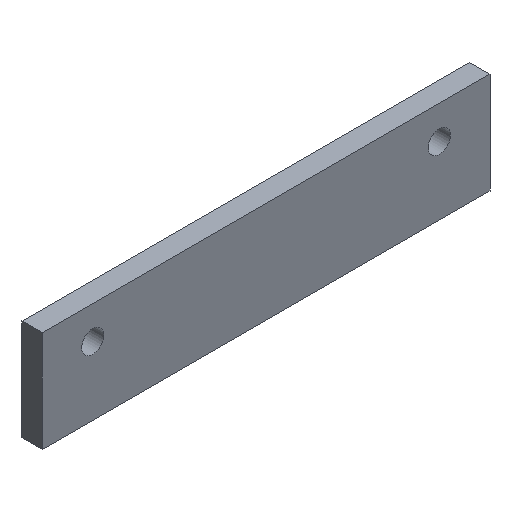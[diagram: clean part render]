
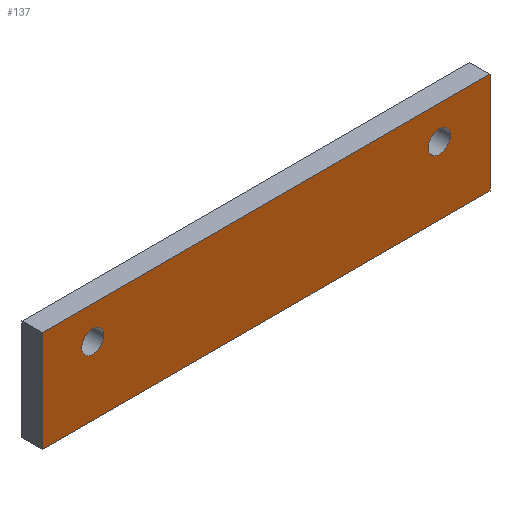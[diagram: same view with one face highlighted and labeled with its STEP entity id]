
A CAD part, isometric view. The second image highlights one B-rep face of the part: STEP entity #137.
In plain terms, the highlighted planar face has unit normal (0, -1, 0).
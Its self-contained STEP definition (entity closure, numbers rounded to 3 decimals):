
#21 = EDGE_CURVE('',#22,#24,#26,.T.);
#22 = VERTEX_POINT('',#23);
#23 = CARTESIAN_POINT('',(-525.,-164.913,-43.));
#24 = VERTEX_POINT('',#25);
#25 = CARTESIAN_POINT('',(-525.,-164.913,-3.));
#26 = SURFACE_CURVE('',#27,(#31,#43),.PCURVE_S1.);
#27 = LINE('',#28,#29);
#28 = CARTESIAN_POINT('',(-525.,-164.913,-43.));
#29 = VECTOR('',#30,1.);
#30 = DIRECTION('',(0.,0.,1.));
#31 = PCURVE('',#32,#37);
#32 = PLANE('',#33);
#33 = AXIS2_PLACEMENT_3D('',#34,#35,#36);
#34 = CARTESIAN_POINT('',(-525.,-164.913,-43.));
#35 = DIRECTION('',(1.,0.,-0.));
#36 = DIRECTION('',(0.,0.,1.));
#37 = DEFINITIONAL_REPRESENTATION('',(#38),#42);
#38 = LINE('',#39,#40);
#39 = CARTESIAN_POINT('',(0.,0.));
#40 = VECTOR('',#41,1.);
#41 = DIRECTION('',(1.,0.));
#42 = ( GEOMETRIC_REPRESENTATION_CONTEXT(2) 
PARAMETRIC_REPRESENTATION_CONTEXT() REPRESENTATION_CONTEXT('2D SPACE',''
  ) );
#43 = PCURVE('',#44,#49);
#44 = PLANE('',#45);
#45 = AXIS2_PLACEMENT_3D('',#46,#47,#48);
#46 = CARTESIAN_POINT('',(-525.,-164.913,-43.));
#47 = DIRECTION('',(-0.,1.,0.));
#48 = DIRECTION('',(0.,0.,1.));
#49 = DEFINITIONAL_REPRESENTATION('',(#50),#54);
#50 = LINE('',#51,#52);
#51 = CARTESIAN_POINT('',(0.,0.));
#52 = VECTOR('',#53,1.);
#53 = DIRECTION('',(1.,0.));
#54 = ( GEOMETRIC_REPRESENTATION_CONTEXT(2) 
PARAMETRIC_REPRESENTATION_CONTEXT() REPRESENTATION_CONTEXT('2D SPACE',''
  ) );
#72 = PLANE('',#73);
#73 = AXIS2_PLACEMENT_3D('',#74,#75,#76);
#74 = CARTESIAN_POINT('',(-525.,-164.913,-43.));
#75 = DIRECTION('',(0.,0.,1.));
#76 = DIRECTION('',(1.,0.,-0.));
#126 = PLANE('',#127);
#127 = AXIS2_PLACEMENT_3D('',#128,#129,#130);
#128 = CARTESIAN_POINT('',(-525.,-164.913,-3.));
#129 = DIRECTION('',(0.,0.,1.));
#130 = DIRECTION('',(1.,0.,-0.));
#137 = ADVANCED_FACE('',(#138,#213,#244),#44,.F.);
#138 = FACE_BOUND('',#139,.F.);
#139 = EDGE_LOOP('',(#140,#163,#164,#187));
#140 = ORIENTED_EDGE('',*,*,#141,.F.);
#141 = EDGE_CURVE('',#22,#142,#144,.T.);
#142 = VERTEX_POINT('',#143);
#143 = CARTESIAN_POINT('',(-348.,-164.913,-43.));
#144 = SURFACE_CURVE('',#145,(#149,#156),.PCURVE_S1.);
#145 = LINE('',#146,#147);
#146 = CARTESIAN_POINT('',(-525.,-164.913,-43.));
#147 = VECTOR('',#148,1.);
#148 = DIRECTION('',(1.,0.,-0.));
#149 = PCURVE('',#44,#150);
#150 = DEFINITIONAL_REPRESENTATION('',(#151),#155);
#151 = LINE('',#152,#153);
#152 = CARTESIAN_POINT('',(0.,0.));
#153 = VECTOR('',#154,1.);
#154 = DIRECTION('',(0.,1.));
#155 = ( GEOMETRIC_REPRESENTATION_CONTEXT(2) 
PARAMETRIC_REPRESENTATION_CONTEXT() REPRESENTATION_CONTEXT('2D SPACE',''
  ) );
#156 = PCURVE('',#72,#157);
#157 = DEFINITIONAL_REPRESENTATION('',(#158),#162);
#158 = LINE('',#159,#160);
#159 = CARTESIAN_POINT('',(0.,0.));
#160 = VECTOR('',#161,1.);
#161 = DIRECTION('',(1.,0.));
#162 = ( GEOMETRIC_REPRESENTATION_CONTEXT(2) 
PARAMETRIC_REPRESENTATION_CONTEXT() REPRESENTATION_CONTEXT('2D SPACE',''
  ) );
#163 = ORIENTED_EDGE('',*,*,#21,.T.);
#164 = ORIENTED_EDGE('',*,*,#165,.T.);
#165 = EDGE_CURVE('',#24,#166,#168,.T.);
#166 = VERTEX_POINT('',#167);
#167 = CARTESIAN_POINT('',(-348.,-164.913,-3.));
#168 = SURFACE_CURVE('',#169,(#173,#180),.PCURVE_S1.);
#169 = LINE('',#170,#171);
#170 = CARTESIAN_POINT('',(-525.,-164.913,-3.));
#171 = VECTOR('',#172,1.);
#172 = DIRECTION('',(1.,0.,-0.));
#173 = PCURVE('',#44,#174);
#174 = DEFINITIONAL_REPRESENTATION('',(#175),#179);
#175 = LINE('',#176,#177);
#176 = CARTESIAN_POINT('',(40.,0.));
#177 = VECTOR('',#178,1.);
#178 = DIRECTION('',(0.,1.));
#179 = ( GEOMETRIC_REPRESENTATION_CONTEXT(2) 
PARAMETRIC_REPRESENTATION_CONTEXT() REPRESENTATION_CONTEXT('2D SPACE',''
  ) );
#180 = PCURVE('',#126,#181);
#181 = DEFINITIONAL_REPRESENTATION('',(#182),#186);
#182 = LINE('',#183,#184);
#183 = CARTESIAN_POINT('',(0.,0.));
#184 = VECTOR('',#185,1.);
#185 = DIRECTION('',(1.,0.));
#186 = ( GEOMETRIC_REPRESENTATION_CONTEXT(2) 
PARAMETRIC_REPRESENTATION_CONTEXT() REPRESENTATION_CONTEXT('2D SPACE',''
  ) );
#187 = ORIENTED_EDGE('',*,*,#188,.F.);
#188 = EDGE_CURVE('',#142,#166,#189,.T.);
#189 = SURFACE_CURVE('',#190,(#194,#201),.PCURVE_S1.);
#190 = LINE('',#191,#192);
#191 = CARTESIAN_POINT('',(-348.,-164.913,-43.));
#192 = VECTOR('',#193,1.);
#193 = DIRECTION('',(0.,0.,1.));
#194 = PCURVE('',#44,#195);
#195 = DEFINITIONAL_REPRESENTATION('',(#196),#200);
#196 = LINE('',#197,#198);
#197 = CARTESIAN_POINT('',(0.,177.));
#198 = VECTOR('',#199,1.);
#199 = DIRECTION('',(1.,0.));
#200 = ( GEOMETRIC_REPRESENTATION_CONTEXT(2) 
PARAMETRIC_REPRESENTATION_CONTEXT() REPRESENTATION_CONTEXT('2D SPACE',''
  ) );
#201 = PCURVE('',#202,#207);
#202 = PLANE('',#203);
#203 = AXIS2_PLACEMENT_3D('',#204,#205,#206);
#204 = CARTESIAN_POINT('',(-348.,-164.913,-43.));
#205 = DIRECTION('',(1.,0.,-0.));
#206 = DIRECTION('',(0.,0.,1.));
#207 = DEFINITIONAL_REPRESENTATION('',(#208),#212);
#208 = LINE('',#209,#210);
#209 = CARTESIAN_POINT('',(0.,0.));
#210 = VECTOR('',#211,1.);
#211 = DIRECTION('',(1.,0.));
#212 = ( GEOMETRIC_REPRESENTATION_CONTEXT(2) 
PARAMETRIC_REPRESENTATION_CONTEXT() REPRESENTATION_CONTEXT('2D SPACE',''
  ) );
#213 = FACE_BOUND('',#214,.F.);
#214 = EDGE_LOOP('',(#215));
#215 = ORIENTED_EDGE('',*,*,#216,.F.);
#216 = EDGE_CURVE('',#217,#217,#219,.T.);
#217 = VERTEX_POINT('',#218);
#218 = CARTESIAN_POINT('',(-505.,-164.913,-11.6));
#219 = SURFACE_CURVE('',#220,(#225,#232),.PCURVE_S1.);
#220 = CIRCLE('',#221,4.4);
#221 = AXIS2_PLACEMENT_3D('',#222,#223,#224);
#222 = CARTESIAN_POINT('',(-505.,-164.913,-16.));
#223 = DIRECTION('',(0.,1.,0.));
#224 = DIRECTION('',(0.,-0.,1.));
#225 = PCURVE('',#44,#226);
#226 = DEFINITIONAL_REPRESENTATION('',(#227),#231);
#227 = CIRCLE('',#228,4.4);
#228 = AXIS2_PLACEMENT_2D('',#229,#230);
#229 = CARTESIAN_POINT('',(27.,20.));
#230 = DIRECTION('',(1.,0.));
#231 = ( GEOMETRIC_REPRESENTATION_CONTEXT(2) 
PARAMETRIC_REPRESENTATION_CONTEXT() REPRESENTATION_CONTEXT('2D SPACE',''
  ) );
#232 = PCURVE('',#233,#238);
#233 = CYLINDRICAL_SURFACE('',#234,4.4);
#234 = AXIS2_PLACEMENT_3D('',#235,#236,#237);
#235 = CARTESIAN_POINT('',(-505.,-165.913,-16.));
#236 = DIRECTION('',(0.,1.,0.));
#237 = DIRECTION('',(0.,-0.,1.));
#238 = DEFINITIONAL_REPRESENTATION('',(#239),#243);
#239 = LINE('',#240,#241);
#240 = CARTESIAN_POINT('',(0.,1.));
#241 = VECTOR('',#242,1.);
#242 = DIRECTION('',(1.,0.));
#243 = ( GEOMETRIC_REPRESENTATION_CONTEXT(2) 
PARAMETRIC_REPRESENTATION_CONTEXT() REPRESENTATION_CONTEXT('2D SPACE',''
  ) );
#244 = FACE_BOUND('',#245,.F.);
#245 = EDGE_LOOP('',(#246));
#246 = ORIENTED_EDGE('',*,*,#247,.F.);
#247 = EDGE_CURVE('',#248,#248,#250,.T.);
#248 = VERTEX_POINT('',#249);
#249 = CARTESIAN_POINT('',(-368.,-164.913,-11.6));
#250 = SURFACE_CURVE('',#251,(#256,#263),.PCURVE_S1.);
#251 = CIRCLE('',#252,4.4);
#252 = AXIS2_PLACEMENT_3D('',#253,#254,#255);
#253 = CARTESIAN_POINT('',(-368.,-164.913,-16.));
#254 = DIRECTION('',(0.,1.,0.));
#255 = DIRECTION('',(0.,-0.,1.));
#256 = PCURVE('',#44,#257);
#257 = DEFINITIONAL_REPRESENTATION('',(#258),#262);
#258 = CIRCLE('',#259,4.4);
#259 = AXIS2_PLACEMENT_2D('',#260,#261);
#260 = CARTESIAN_POINT('',(27.,157.));
#261 = DIRECTION('',(1.,0.));
#262 = ( GEOMETRIC_REPRESENTATION_CONTEXT(2) 
PARAMETRIC_REPRESENTATION_CONTEXT() REPRESENTATION_CONTEXT('2D SPACE',''
  ) );
#263 = PCURVE('',#264,#269);
#264 = CYLINDRICAL_SURFACE('',#265,4.4);
#265 = AXIS2_PLACEMENT_3D('',#266,#267,#268);
#266 = CARTESIAN_POINT('',(-368.,-165.913,-16.));
#267 = DIRECTION('',(0.,1.,0.));
#268 = DIRECTION('',(0.,-0.,1.));
#269 = DEFINITIONAL_REPRESENTATION('',(#270),#274);
#270 = LINE('',#271,#272);
#271 = CARTESIAN_POINT('',(0.,1.));
#272 = VECTOR('',#273,1.);
#273 = DIRECTION('',(1.,0.));
#274 = ( GEOMETRIC_REPRESENTATION_CONTEXT(2) 
PARAMETRIC_REPRESENTATION_CONTEXT() REPRESENTATION_CONTEXT('2D SPACE',''
  ) );
